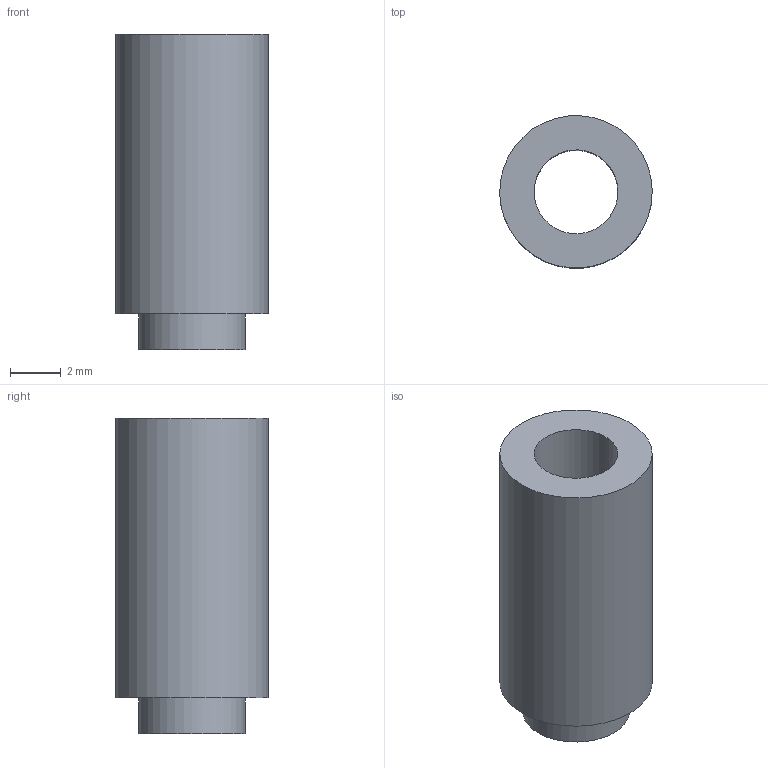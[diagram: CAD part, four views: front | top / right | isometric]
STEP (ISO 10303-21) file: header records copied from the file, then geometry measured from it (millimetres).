
FILE_DESCRIPTION(('FreeCAD Model'),'2;1');
FILE_NAME('Open CASCADE Shape Model','2026-03-20T17:23:28',('Author'),( ''),'Open CASCADE STEP processor 7.8','FreeCAD','Unknown');
FILE_SCHEMA(('AP242_MANAGED_MODEL_BASED_3D_ENGINEERING_MIM_LF. {1 0 10303 442 1 1 4 }'));
Length unit declared in the file: millimetre
Products named in the file (1): 1_transformed
Bounding box: 6 x 5.99 x 12.4 mm (x, y, z)
Volume: 226.3 mm3; surface area: 394.8 mm2
Topology: 1 solids, 1 shells, 6 faces, 9 edges, 6 vertices
Faces by surface type: bspline 6
Entity records: 201 total; most frequent: CARTESIAN_POINT 109, ORIENTED_EDGE 18, FACE_BOUND 9, EDGE_LOOP 9, EDGE_CURVE 9, ADVANCED_FACE 6, VERTEX_POINT 6, B_SPLINE_SURFACE_WITH_KNOTS 3
